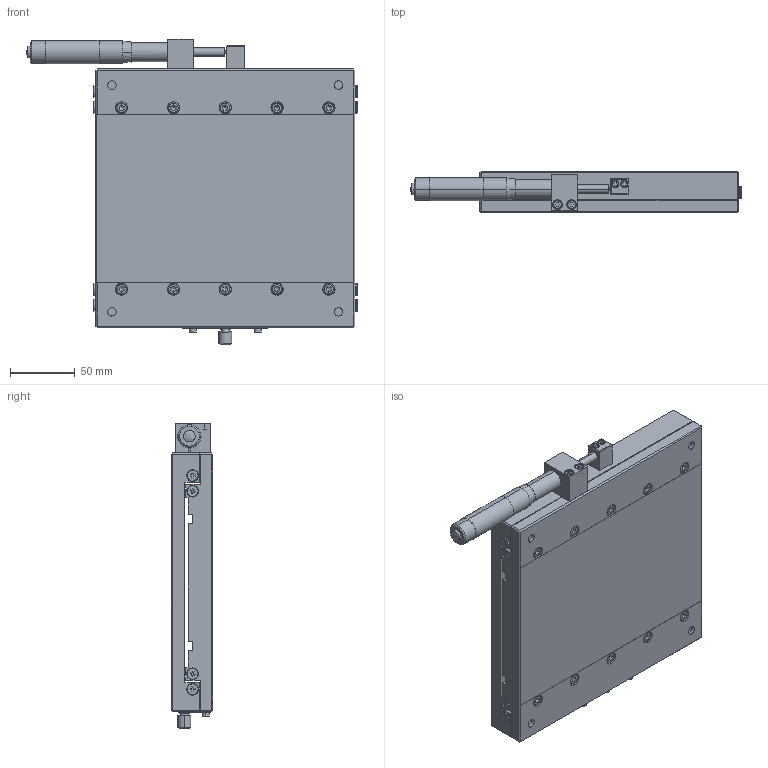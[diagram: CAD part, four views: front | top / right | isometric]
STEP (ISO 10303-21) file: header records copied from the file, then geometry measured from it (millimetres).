
FILE_DESCRIPTION (( 'STEP AP203' ), '1' );
FILE_NAME ('LX200-R.STEP', '2013-12-29T07:56:04', ( 'pengyu' ), ( '' ), 'SwSTEP 2.0', 'SolidWorks 2011', '' );
FILE_SCHEMA (( 'CONFIG_CONTROL_DESIGN' ));
Length unit declared in the file: millimetre
Products named in the file (4): L200R-1; L200R-2; MT50-1-1; LX200-R
Assembly tree (3 placements, depth 2):
  LX200-R
    MT50-1-1
    L200R-2
    L200R-1
Bounding box: 255.17 x 32 x 236 mm (x, y, z)
Volume: 1203796 mm3; surface area: 232594.5 mm2
Topology: 3 solids, 6 shells, 1026 faces, 2553 edges, 1609 vertices
Faces by surface type: plane 582, cylinder 291, bspline 91, cone 62
Entity records: 32300 total; most frequent: CARTESIAN_POINT 7303, DIRECTION 5195, ORIENTED_EDGE 5018, EDGE_CURVE 2509, AXIS2_PLACEMENT_3D 1847, VERTEX_POINT 1609, LINE 1501, VECTOR 1501
